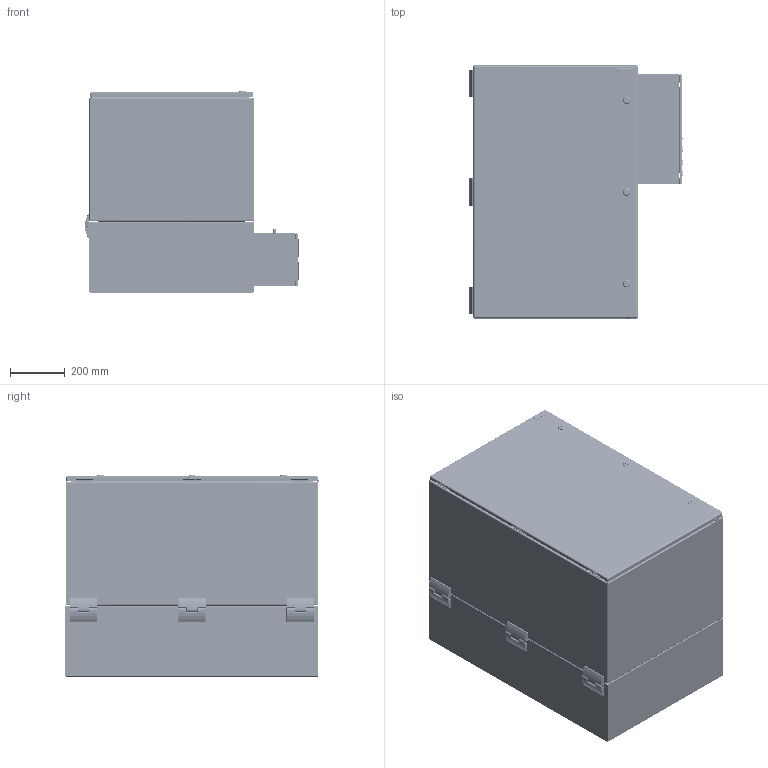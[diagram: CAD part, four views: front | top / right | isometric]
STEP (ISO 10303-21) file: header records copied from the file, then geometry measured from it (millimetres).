
FILE_DESCRIPTION (( 'STEP AP203' ), '1' );
FILE_NAME ('pyhs362428xa.STEP', '2011-12-06T15:05:41', ( 'Hoffman User' ), ( 'Hoffman Enclosures' ), 'SwSTEP 2.0', 'SolidWorks 2010', '' );
FILE_SCHEMA (( 'CONFIG_CONTROL_DESIGN' ));
Length unit declared in the file: millimetre
Products named in the file (59): 99408537; 99407583; 87956867; 99405181; 87956872; 87956875; 99406294; 87956873; 87956874; 87930615; 87928711; 87929769_Installed on Pin; 89060213; 89060214; 89070551; 89060212; 89071543_89071543; 89070550; 89070549; 89056327; 89060606_89060606; 89077146; 89072123_GUIDE HOLES REMOVED; 89077149; 87928600; 89080407; pyhs362428xa; 89081281; 89081280; 89076590; 89074130; 89081282; 87846299_Config-Drawing; 89066984; 89066983; 89066982; 89066981_WITH STAKE; 89066976; 87540581; 89066975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
Assembly tree (134 placements, depth 5):
  pyhs362428xa
    89070551  x6
    89060212  x3
    89060606_89060606  x2
    87930615  x3
      87929769_Installed on Pin
      87928711
    89071543_89071543  x3
    89070550  x3
      89056327
      89070549
    89060214  x3
    87543026  x3
    89060213  x3
    89077146
      89072123_GUIDE HOLES REMOVED
    89066982  x3
      87540581
      89066976
      89066981_WITH STAKE
    89066984  x3
      87540581
      89066983
    89066975  x3
    89081281
      89076590  x2
      89081282
      89074130  x2
      87846299_Config-Drawing  x6
      89081280
      99401226_After Weld
    87951490  x3
      87951464
      89056623
    89077149
      89072123_GUIDE HOLES REMOVED
    89080407
    87928600
    89078902_WITH PRINT POCKET AND LATCHES
      99411090  x3
        99407583
          87956872
          87956867
          99405181
          87956875
        99406294
          87956873
          87956874
        99408537
      87751114_87751114  x2
      23418001
      89078899
      64138001  x2
      31122001_31122001  x3
      99401226_After Weld
      89078906
    89081277
      89081276
        99401226_After Weld  x20
        89081274
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Bounding box: 781.01 x 923.13 x 734.19 mm (x, y, z)
Volume: 8160852.2 mm3; surface area: 9330675.4 mm2
Topology: 148 solids, 176 shells, 10646 faces, 26979 edges, 16796 vertices
Faces by surface type: plane 4691, cylinder 3127, bspline 1592, torus 624, cone 524, sphere 88
Entity records: 265629 total; most frequent: CARTESIAN_POINT 106531, ORIENTED_EDGE 32584, DIRECTION 27702, EDGE_CURVE 16747, VERTEX_POINT 10690, VECTOR 10342, LINE 10342, AXIS2_PLACEMENT_3D 8680
